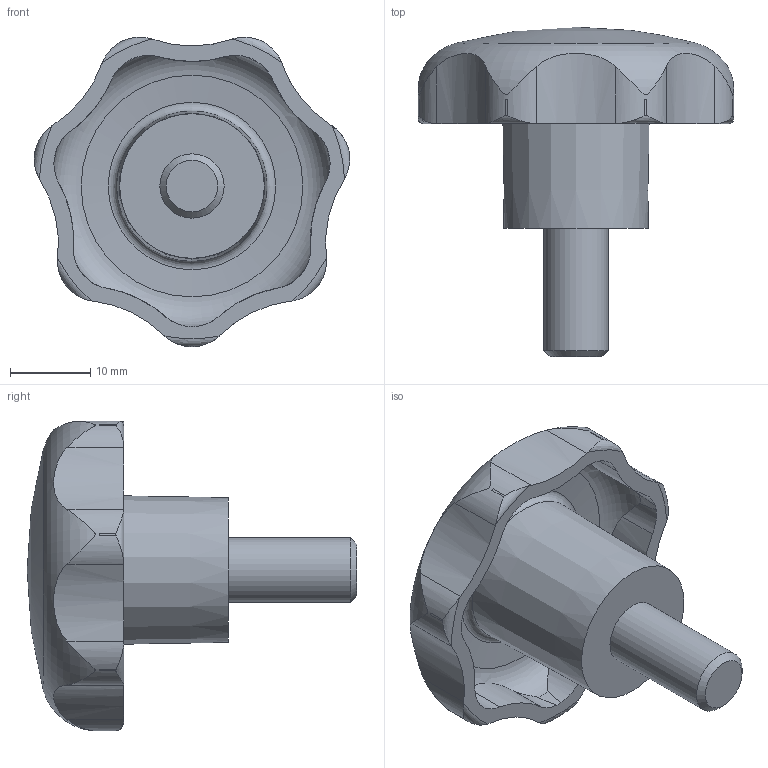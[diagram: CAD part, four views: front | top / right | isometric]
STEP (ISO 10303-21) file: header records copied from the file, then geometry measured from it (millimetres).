
FILE_DESCRIPTION( ( 'STEP AP203' ), '1' );
FILE_NAME( 'C:/Temp/Ganter_Step_05_03_2020/data/2_2/gn_6336_4/gn_6336_4_st/Star knob GN 6336.4-ST-40-M8-16.stp', '2020-03-05T12:07:27', ( 'License CC BY-ND 4.0' ), ( 'CADENAS' ), ' ', 'PARTsolutions', ' ' );
FILE_SCHEMA( ( 'CONFIG_CONTROL_DESIGN' ) );
Length unit declared in the file: millimetre
Products named in the file (1): _Star knob GN 6336.4-ST-40-M8-16
Bounding box: 39.25 x 41 x 38.51 mm (x, y, z)
Volume: 11609.3 mm3; surface area: 5285.6 mm2
Topology: 1 solids, 1 shells, 74 faces, 209 edges, 138 vertices
Faces by surface type: cylinder 43, torus 17, cone 10, plane 3, sphere 1
Full cylindrical faces by diameter (mm): 8 x1
Entity records: 3288 total; most frequent: CARTESIAN_POINT 1437, ORIENTED_EDGE 394, DIRECTION 362, EDGE_CURVE 197, AXIS2_PLACEMENT_3D 160, VERTEX_POINT 135, CIRCLE 85, EDGE_LOOP 83
